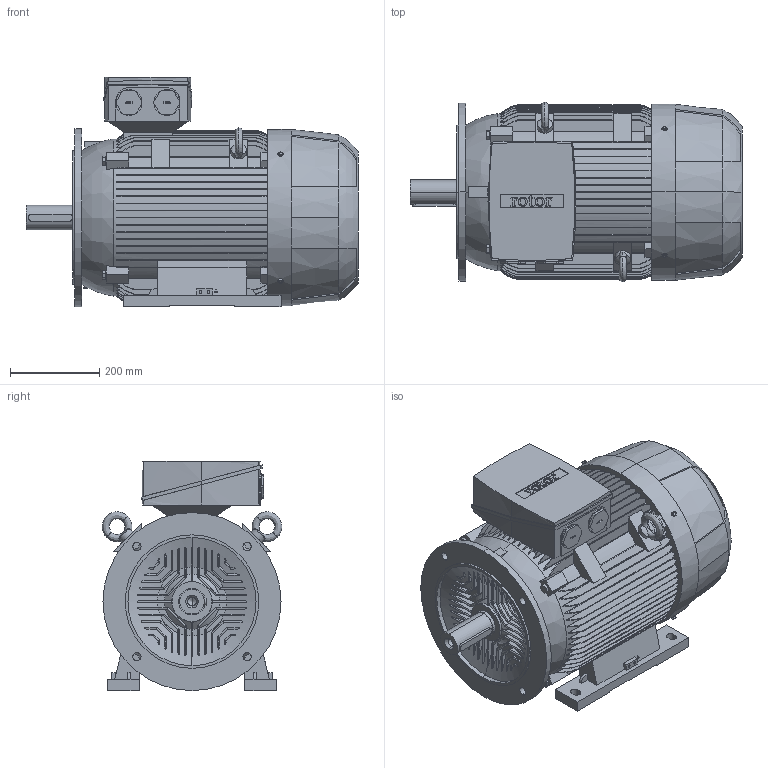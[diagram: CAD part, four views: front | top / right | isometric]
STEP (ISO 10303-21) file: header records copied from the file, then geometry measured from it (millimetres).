
FILE_DESCRIPTION (( 'STEP AP203' ), '1' );
FILE_NAME ('6RN200L04E16 IM2041.STEP', '2017-01-19T09:47:20', ( 'rotor' ), ( 'Hewlett-Packard Company' ), 'SwSTEP 2.0', 'SolidWorks 2015', '' );
FILE_SCHEMA (( 'CONFIG_CONTROL_DESIGN' ));
Products named in the file (1): 6RN200L04E16 IM2041
Bounding box: 746 x 403.47 x 515 mm (x, y, z)
Volume: 73032465.5 mm3; surface area: 2267427.7 mm2
Topology: 1 solids, 1 shells, 1356 faces, 3780 edges, 2480 vertices
Faces by surface type: plane 830, cylinder 298, bspline 200, cone 28
Entity records: 52914 total; most frequent: CARTESIAN_POINT 20789, ORIENTED_EDGE 7556, DIRECTION 5492, EDGE_CURVE 3778, VERTEX_POINT 2480, LINE 1994, VECTOR 1994, AXIS2_PLACEMENT_3D 1749
